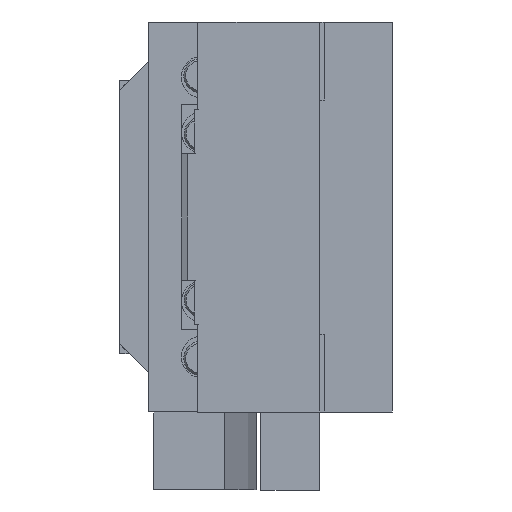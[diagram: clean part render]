
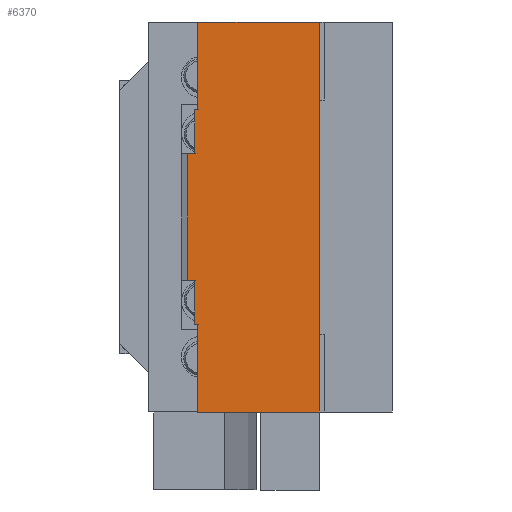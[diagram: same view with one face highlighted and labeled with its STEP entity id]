
A CAD part, left-side view. The second image highlights one B-rep face of the part: STEP entity #6370.
In plain terms, the highlighted planar face has unit normal (-1, 0, 0).
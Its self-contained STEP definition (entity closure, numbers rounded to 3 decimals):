
#629 = LINE ( 'NONE', #651, #4709 ) ;
#651 = CARTESIAN_POINT ( 'NONE',  ( -27., 7., 6.5 ) ) ;
#652 = DIRECTION ( 'NONE',  ( 0., -1., 0. ) ) ;
#653 = LINE ( 'NONE', #654, #4726 ) ;
#654 = CARTESIAN_POINT ( 'NONE',  ( -27., 5.966, -11. ) ) ;
#655 = DIRECTION ( 'NONE',  ( 0., 0., -1. ) ) ;
#684 = CARTESIAN_POINT ( 'NONE',  ( -27., 6.301, 6.5 ) ) ;
#688 = LINE ( 'NONE', #684, #6396 ) ;
#694 = DIRECTION ( 'NONE',  ( 0., 0., 1. ) ) ;
#1725 = EDGE_LOOP ( 'NONE', ( #6024, #6035, #6038, #6026, #6023, #5893, #6011, #5879, #5880, #6031, #5881, #5894 ) ) ;
#2129 = LINE ( 'NONE', #2130, #6512 ) ;
#2130 = CARTESIAN_POINT ( 'NONE',  ( -27., 6.301, 11. ) ) ;
#2131 = DIRECTION ( 'NONE',  ( 0., -1., 0. ) ) ;
#2133 = LINE ( 'NONE', #2164, #6792 ) ;
#2138 = LINE ( 'NONE', #2139, #6901 ) ;
#2139 = CARTESIAN_POINT ( 'NONE',  ( -27., 7., 20. ) ) ;
#2140 = DIRECTION ( 'NONE',  ( 0., 0., -1. ) ) ;
#2148 = LINE ( 'NONE', #2149, #6480 ) ;
#2149 = CARTESIAN_POINT ( 'NONE',  ( -27., -6.5, 20. ) ) ;
#2150 = DIRECTION ( 'NONE',  ( 0., 0., -1. ) ) ;
#2152 = LINE ( 'NONE', #2155, #6794 ) ;
#2155 = CARTESIAN_POINT ( 'NONE',  ( -27., 5.966, 11. ) ) ;
#2156 = DIRECTION ( 'NONE',  ( 0., 0., 1. ) ) ;
#2164 = CARTESIAN_POINT ( 'NONE',  ( -27., 6.301, -11. ) ) ;
#2168 = DIRECTION ( 'NONE',  ( 0., -1., 0. ) ) ;
#2187 = LINE ( 'NONE', #2189, #6796 ) ;
#2189 = CARTESIAN_POINT ( 'NONE',  ( -27., 7., 20. ) ) ;
#2190 = DIRECTION ( 'NONE',  ( 0., -1., 0. ) ) ;
#2222 = CARTESIAN_POINT ( 'NONE',  ( -27., -6.5, -20. ) ) ;
#2325 = CARTESIAN_POINT ( 'NONE',  ( -27., 5.966, -20. ) ) ;
#2370 = CARTESIAN_POINT ( 'NONE',  ( -27., 6.301, -6.5 ) ) ;
#2381 = CARTESIAN_POINT ( 'NONE',  ( -27., 6.301, -11. ) ) ;
#2664 = CARTESIAN_POINT ( 'NONE',  ( -27., 7., 20. ) ) ;
#2681 = FACE_OUTER_BOUND ( 'NONE', #1725, .T. ) ;
#2683 = PLANE ( 'NONE',  #6831 ) ;
#2687 = DIRECTION ( 'NONE',  ( 1., 0., 0. ) ) ;
#2689 = DIRECTION ( 'NONE',  ( 0., 0., -1. ) ) ;
#3925 = CARTESIAN_POINT ( 'NONE',  ( -27., 5.966, -11. ) ) ;
#3939 = CARTESIAN_POINT ( 'NONE',  ( -27., 7., -6.5 ) ) ;
#3945 = CARTESIAN_POINT ( 'NONE',  ( -27., 6.301, 6.5 ) ) ;
#3949 = CARTESIAN_POINT ( 'NONE',  ( -27., 6.301, 11. ) ) ;
#3951 = CARTESIAN_POINT ( 'NONE',  ( -27., 5.966, 11. ) ) ;
#3953 = CARTESIAN_POINT ( 'NONE',  ( -27., 7., 6.5 ) ) ;
#3955 = CARTESIAN_POINT ( 'NONE',  ( -27., -6.5, 20. ) ) ;
#3957 = CARTESIAN_POINT ( 'NONE',  ( -27., 5.966, 20. ) ) ;
#3998 = LINE ( 'NONE', #4016, #4612 ) ;
#4015 = VERTEX_POINT ( 'NONE', #3925 ) ;
#4016 = CARTESIAN_POINT ( 'NONE',  ( -27., 7., -20. ) ) ;
#4021 = DIRECTION ( 'NONE',  ( 0., -1., 0. ) ) ;
#4027 = VERTEX_POINT ( 'NONE', #3939 ) ;
#4032 = VERTEX_POINT ( 'NONE', #3945 ) ;
#4036 = VERTEX_POINT ( 'NONE', #3949 ) ;
#4038 = VERTEX_POINT ( 'NONE', #3951 ) ;
#4039 = VERTEX_POINT ( 'NONE', #3953 ) ;
#4040 = VERTEX_POINT ( 'NONE', #3955 ) ;
#4042 = VERTEX_POINT ( 'NONE', #3957 ) ;
#4133 = LINE ( 'NONE', #4134, #4465 ) ;
#4134 = CARTESIAN_POINT ( 'NONE',  ( -27., 6.301, -6.5 ) ) ;
#4135 = DIRECTION ( 'NONE',  ( 0., 0., -1. ) ) ;
#4151 = LINE ( 'NONE', #4152, #4425 ) ;
#4152 = CARTESIAN_POINT ( 'NONE',  ( -27., 7., -6.5 ) ) ;
#4153 = DIRECTION ( 'NONE',  ( 0., -1., 0. ) ) ;
#4425 = VECTOR ( 'NONE', #4153, 1000. ) ;
#4465 = VECTOR ( 'NONE', #4135, 1000. ) ;
#4612 = VECTOR ( 'NONE', #4021, 1000. ) ;
#4709 = VECTOR ( 'NONE', #652, 1000. ) ;
#4726 = VECTOR ( 'NONE', #655, 1000. ) ;
#4838 = EDGE_CURVE ( 'NONE', #5619, #5497, #3998, .T. ) ;
#4869 = EDGE_CURVE ( 'NONE', #5649, #5655, #4133, .T. ) ;
#4875 = EDGE_CURVE ( 'NONE', #4027, #5649, #4151, .T. ) ;
#5007 = EDGE_CURVE ( 'NONE', #4039, #4032, #629, .T. ) ;
#5008 = EDGE_CURVE ( 'NONE', #4015, #5619, #653, .T. ) ;
#5021 = EDGE_CURVE ( 'NONE', #4032, #4036, #688, .T. ) ;
#5290 = EDGE_CURVE ( 'NONE', #4036, #4038, #2129, .T. ) ;
#5293 = EDGE_CURVE ( 'NONE', #4039, #4027, #2138, .T. ) ;
#5296 = EDGE_CURVE ( 'NONE', #4040, #5497, #2148, .T. ) ;
#5297 = EDGE_CURVE ( 'NONE', #4038, #4042, #2152, .T. ) ;
#5299 = EDGE_CURVE ( 'NONE', #5655, #4015, #2133, .T. ) ;
#5303 = EDGE_CURVE ( 'NONE', #4042, #4040, #2187, .T. ) ;
#5497 = VERTEX_POINT ( 'NONE', #2222 ) ;
#5619 = VERTEX_POINT ( 'NONE', #2325 ) ;
#5649 = VERTEX_POINT ( 'NONE', #2370 ) ;
#5655 = VERTEX_POINT ( 'NONE', #2381 ) ;
#5879 = ORIENTED_EDGE ( 'NONE', *, *, #5007, .F. ) ;
#5880 = ORIENTED_EDGE ( 'NONE', *, *, #5293, .T. ) ;
#5881 = ORIENTED_EDGE ( 'NONE', *, *, #4869, .T. ) ;
#5893 = ORIENTED_EDGE ( 'NONE', *, *, #5290, .F. ) ;
#5894 = ORIENTED_EDGE ( 'NONE', *, *, #5299, .T. ) ;
#6011 = ORIENTED_EDGE ( 'NONE', *, *, #5021, .F. ) ;
#6023 = ORIENTED_EDGE ( 'NONE', *, *, #5297, .F. ) ;
#6024 = ORIENTED_EDGE ( 'NONE', *, *, #5008, .T. ) ;
#6026 = ORIENTED_EDGE ( 'NONE', *, *, #5303, .F. ) ;
#6031 = ORIENTED_EDGE ( 'NONE', *, *, #4875, .T. ) ;
#6035 = ORIENTED_EDGE ( 'NONE', *, *, #4838, .T. ) ;
#6038 = ORIENTED_EDGE ( 'NONE', *, *, #5296, .F. ) ;
#6370 = ADVANCED_FACE ( 'NONE', ( #2681 ), #2683, .F. ) ;
#6396 = VECTOR ( 'NONE', #694, 1000. ) ;
#6480 = VECTOR ( 'NONE', #2150, 1000. ) ;
#6512 = VECTOR ( 'NONE', #2131, 1000. ) ;
#6792 = VECTOR ( 'NONE', #2168, 1000. ) ;
#6794 = VECTOR ( 'NONE', #2156, 1000. ) ;
#6796 = VECTOR ( 'NONE', #2190, 1000. ) ;
#6831 = AXIS2_PLACEMENT_3D ( 'NONE', #2664, #2687, #2689 ) ;
#6901 = VECTOR ( 'NONE', #2140, 1000. ) ;
